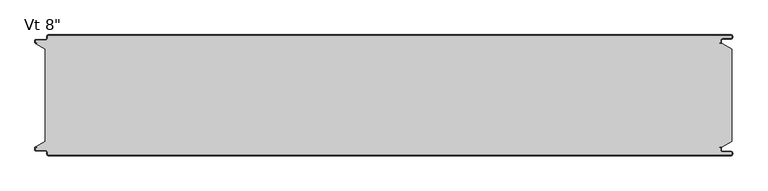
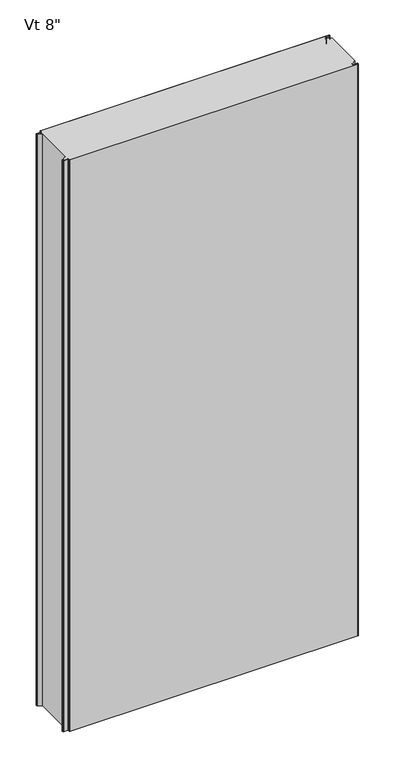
"""IFC4 building model written with IfcOpenShell, lengths in millimetres: plate geometry."""

from ifc_helpers import new_model, si_unit, frame, origin, place, context, project, spatial, polyline, circle_curve, source, transform, mapped, element, save
from ifc_brep_helpers import plane_surface, cylinder_surface, revolved_surface, advanced_brep


def plate_32e445c0(model_context):
    return source(origin(), model_context, "Body", "AdvancedBrep", [
        advanced_brep(
        [(-572.4125501, -200.2227194, 2400.0), (-570.4352761, -202.1999935, 2400.0), (574.5475652, -202.2, 2400.0), (576.5248337, -200.2227315, 2400.0), (576.5248337, -199.1806329, 2400.0), (574.5475652, -197.2033643, 2400.0), (560.3591802, -197.2033643, 2400.0), (557.7713036, -194.6154878, 2400.0), (557.7713036, -190.2950697, 2400.0), (557.1628365, -189.7060762, 2400.0), (554.7857432, -189.7060762, 2400.0), (554.7857432, -188.7066023, 2400.0), (560.2280123, -188.7066023, 2400.0), (576.2625, -179.4490865, 2400.0), (576.2625, -23.7509179, 2400.0), (560.2280123, -14.4933977, 2400.0), (554.7857432, -14.4933977, 2400.0), (554.7857432, -13.4939238, 2400.0), (557.1628365, -13.4939238, 2400.0), (557.7713036, -12.9049303, 2400.0), (557.7713036, -8.5845122, 2400.0), (560.3591802, -5.9966357, 2400.0), (574.5475652, -5.9966357, 2400.0), (576.5248337, -4.0193671, 2400.0), (576.5248337, -2.9772685, 2400.0), (574.5475652, -1.0, 2400.0), (-570.4352761, -1.0, 2400.0), (-572.4125501, -2.9772806, 2400.0), (-572.4125501, -5.2691705, 2400.0), (-576.3898173, -9.2464377, 2400.0), (-591.9862417, -9.2464377, 2400.0), (-592.5741186, -9.8343146, 2400.0), (-592.5741186, -12.9058635, 2400.0), (-591.986242, -13.4937402, 2400.0), (-589.6312064, -13.4937402, 2400.0), (-589.6312064, -14.4937402, 2400.0), (-591.9207851, -14.4937402, 2400.0), (-576.2625, -23.7509135, 2400.0), (-576.2625, -179.4490865, 2400.0), (-591.9207851, -188.7062598, 2400.0), (-589.6312064, -188.7062598, 2400.0), (-589.6312064, -189.7062598, 2400.0), (-591.986242, -189.7062598, 2400.0), (-592.5741186, -190.2941365, 2400.0), (-592.5741186, -193.3656854, 2400.0), (-591.9862417, -193.9535623, 2400.0), (-576.3898173, -193.9535623, 2400.0), (-572.4125501, -197.9308295, 2400.0), (-572.4125501, -200.2227194, 0.0), (-572.4125501, -197.9308295, 0.0), (-576.3898173, -193.9535623, 0.0), (-591.9862417, -193.9535623, 0.0), (-592.5741186, -193.3656854, 0.0), (-592.5741186, -190.2941365, 0.0), (-591.986242, -189.7062598, 0.0), (-589.6312064, -189.7062598, 0.0), (-589.6312064, -188.7062598, 0.0), (-591.9207851, -188.7062598, 0.0), (-576.2625, -179.4490865, 0.0), (-576.2625, -23.7509179, 0.0), (-591.9207851, -14.4937402, 0.0), (-589.6312064, -14.4937402, 0.0), (-589.6312064, -13.4937402, 0.0), (-591.986242, -13.4937402, 0.0), (-592.5741186, -12.9058635, 0.0), (-592.5741186, -9.8343146, 0.0), (-591.9862417, -9.2464377, 0.0), (-576.3898173, -9.2464377, 0.0), (-572.4125501, -5.2691705, 0.0), (-572.4125501, -2.9772806, 0.0), (-570.4352761, -1.0000065, 0.0), (574.5475652, -1.0, 0.0), (576.5248337, -2.9772685, 0.0), (576.5248337, -4.0193671, 0.0), (574.5475652, -5.9966357, 0.0), (560.3591802, -5.9966357, 0.0), (557.7713036, -8.5845122, 0.0), (557.7713036, -12.9049303, 0.0), (557.1628365, -13.4939238, 0.0), (554.7857432, -13.4939238, 0.0), (554.7857432, -14.4933977, 0.0), (560.2280123, -14.4933977, 0.0), (576.2625, -23.7509135, 0.0), (576.2625, -179.4490865, 0.0), (560.2280123, -188.7066023, 0.0), (554.7857432, -188.7066023, 0.0), (554.7857432, -189.7060762, 0.0), (557.1628365, -189.7060762, 0.0), (557.7713036, -190.2950697, 0.0), (557.7713036, -194.6154878, 0.0), (560.3591802, -197.2033643, 0.0), (574.5475652, -197.2033643, 0.0), (576.5248337, -199.1806329, 0.0), (576.5248337, -200.2227315, 0.0), (574.5475652, -202.2, 0.0), (-570.4352761, -202.2, 0.0)],
        [
            (0, 1, circle_curve(frame((-570.4352761, -200.2227194, 2400.0), z_axis=(0.0, 0.0, 1.0), x_axis=(-1.0, 0.0, 0.0)), 1.977274)),
            (1, 2),
            (2, 3, circle_curve(frame((574.5475652, -200.2227315, 2400.0), z_axis=(0.0, 0.0, 1.0), x_axis=(-1.0, 0.0, 0.0)), 1.9772685)),
            (3, 4),
            (4, 5, circle_curve(frame((574.5475652, -199.1806329, 2400.0), z_axis=(0.0, 0.0, 1.0), x_axis=(-1.0, 0.0, 0.0)), 1.9772685)),
            (5, 6),
            (6, 7, circle_curve(frame((560.3591802, -194.6154878, 2400.0), z_axis=(0.0, 0.0, -1.0), x_axis=(-1.0, 0.0, 0.0)), 2.5878765)),
            (7, 8),
            (8, 9, circle_curve(frame((557.1819985, -190.2950697, 2400.0), z_axis=(0.0, 0.0, 1.0), x_axis=(-1.0, 0.0, 0.0)), 0.5893051)),
            (9, 10),
            (10, 11),
            (11, 12),
            (12, 13),
            (13, 14),
            (14, 15),
            (15, 16),
            (16, 17),
            (17, 18),
            (18, 19, circle_curve(frame((557.1819985, -12.9049303, 2400.0), z_axis=(0.0, 0.0, 1.0), x_axis=(0.0, 1.0, 0.0)), 0.5893051)),
            (19, 20),
            (20, 21, circle_curve(frame((560.3591802, -8.5845122, 2400.0), z_axis=(0.0, 0.0, -1.0), x_axis=(0.0, 1.0, 0.0)), 2.5878765)),
            (21, 22),
            (22, 23, circle_curve(frame((574.5475652, -4.0193671, 2400.0), z_axis=(0.0, 0.0, 1.0), x_axis=(0.0, 1.0, 0.0)), 1.9772685)),
            (23, 24),
            (24, 25, circle_curve(frame((574.5475652, -2.9772685, 2400.0), z_axis=(0.0, 0.0, 1.0), x_axis=(0.0, 1.0, 0.0)), 1.9772685)),
            (25, 26),
            (26, 27, circle_curve(frame((-570.4352761, -2.9772806, 2400.0), z_axis=(0.0, 0.0, 1.0), x_axis=(0.0, 1.0, 0.0)), 1.977274)),
            (27, 28),
            (28, 29, circle_curve(frame((-576.3898173, -5.2691705, 2400.0), z_axis=(0.0, 0.0, -1.0), x_axis=(0.0, 1.0, 0.0)), 3.9772671)),
            (29, 30),
            (30, 31, circle_curve(frame((-591.9862417, -9.8343146, 2400.0), z_axis=(0.0, 0.0, 1.0), x_axis=(0.0, 1.0, 0.0)), 0.5878769)),
            (31, 32),
            (32, 33, circle_curve(frame((-591.986242, -12.9058635, 2400.0), z_axis=(0.0, 0.0, 1.0), x_axis=(0.0, 1.0, 0.0)), 0.5878766)),
            (33, 34),
            (34, 35),
            (35, 36),
            (36, 37),
            (37, 38),
            (38, 39),
            (39, 40),
            (40, 41),
            (41, 42),
            (42, 43, circle_curve(frame((-591.986242, -190.2941365, 2400.0), z_axis=(0.0, 0.0, 1.0), x_axis=(-1.0, 0.0, 0.0)), 0.5878766)),
            (43, 44),
            (44, 45, circle_curve(frame((-591.9862417, -193.3656854, 2400.0), z_axis=(0.0, 0.0, 1.0), x_axis=(-1.0, 0.0, 0.0)), 0.5878769)),
            (45, 46),
            (46, 47, circle_curve(frame((-576.3898173, -197.9308295, 2400.0), z_axis=(0.0, 0.0, -1.0), x_axis=(-1.0, 0.0, 0.0)), 3.9772671)),
            (47, 0),
            (48, 49),
            (49, 50, circle_curve(frame((-576.3898173, -197.9308295, 0.0), z_axis=(0.0, 0.0, 1.0), x_axis=(-1.0, 0.0, 0.0)), 3.9772671)),
            (50, 51),
            (51, 52, circle_curve(frame((-591.9862417, -193.3656854, 0.0), z_axis=(0.0, 0.0, -1.0), x_axis=(-1.0, 0.0, 0.0)), 0.5878769)),
            (52, 53),
            (53, 54, circle_curve(frame((-591.986242, -190.2941365, 0.0), z_axis=(0.0, 0.0, -1.0), x_axis=(-1.0, 0.0, 0.0)), 0.5878766)),
            (54, 55),
            (55, 56),
            (56, 57),
            (57, 58),
            (58, 59),
            (59, 60),
            (60, 61),
            (61, 62),
            (62, 63),
            (63, 64, circle_curve(frame((-591.986242, -12.9058635, 0.0), z_axis=(0.0, 0.0, -1.0), x_axis=(0.0, 1.0, 0.0)), 0.5878766)),
            (64, 65),
            (65, 66, circle_curve(frame((-591.9862417, -9.8343146, 0.0), z_axis=(0.0, 0.0, -1.0), x_axis=(0.0, 1.0, 0.0)), 0.5878769)),
            (66, 67),
            (67, 68, circle_curve(frame((-576.3898173, -5.2691705, 0.0), z_axis=(0.0, 0.0, 1.0), x_axis=(0.0, 1.0, 0.0)), 3.9772671)),
            (68, 69),
            (69, 70, circle_curve(frame((-570.4352761, -2.9772806, 0.0), z_axis=(0.0, 0.0, -1.0), x_axis=(0.0, 1.0, 0.0)), 1.977274)),
            (70, 71),
            (71, 72, circle_curve(frame((574.5475652, -2.9772685, 0.0), z_axis=(0.0, 0.0, -1.0), x_axis=(0.0, 1.0, 0.0)), 1.9772685)),
            (72, 73),
            (73, 74, circle_curve(frame((574.5475652, -4.0193671, 0.0), z_axis=(0.0, 0.0, -1.0), x_axis=(0.0, 1.0, 0.0)), 1.9772685)),
            (74, 75),
            (75, 76, circle_curve(frame((560.3591802, -8.5845122, 0.0), z_axis=(0.0, 0.0, 1.0), x_axis=(0.0, 1.0, 0.0)), 2.5878765)),
            (76, 77),
            (77, 78, circle_curve(frame((557.1819985, -12.9049303, 0.0), z_axis=(0.0, 0.0, -1.0), x_axis=(0.0, 1.0, 0.0)), 0.5893051)),
            (78, 79),
            (79, 80),
            (80, 81),
            (81, 82),
            (82, 83),
            (83, 84),
            (84, 85),
            (85, 86),
            (86, 87),
            (87, 88, circle_curve(frame((557.1819985, -190.2950697, 0.0), z_axis=(0.0, 0.0, -1.0), x_axis=(-1.0, 0.0, 0.0)), 0.5893051)),
            (88, 89),
            (89, 90, circle_curve(frame((560.3591802, -194.6154878, 0.0), z_axis=(0.0, 0.0, 1.0), x_axis=(-1.0, 0.0, 0.0)), 2.5878765)),
            (90, 91),
            (91, 92, circle_curve(frame((574.5475652, -199.1806329, 0.0), z_axis=(0.0, 0.0, -1.0), x_axis=(-1.0, 0.0, 0.0)), 1.9772685)),
            (92, 93),
            (93, 94, circle_curve(frame((574.5475652, -200.2227315, 0.0), z_axis=(0.0, 0.0, -1.0), x_axis=(-1.0, 0.0, 0.0)), 1.9772685)),
            (94, 95),
            (95, 48, circle_curve(frame((-570.4352761, -200.2227194, 0.0), z_axis=(0.0, 0.0, -1.0), x_axis=(-1.0, 0.0, 0.0)), 1.977274)),
            (37, 59),
            (58, 38),
            (13, 83),
            (82, 14),
            (47, 49),
            (48, 0),
            (46, 50),
            (45, 51),
            (44, 52),
            (43, 53),
            (42, 54),
            (41, 55),
            (40, 56),
            (39, 57),
            (12, 84),
            (11, 85),
            (10, 86),
            (9, 87),
            (8, 88),
            (7, 89),
            (6, 90),
            (5, 91),
            (4, 92),
            (3, 93),
            (2, 94),
            (1, 95),
            (26, 70),
            (69, 27),
            (25, 71),
            (24, 72),
            (23, 73),
            (22, 74),
            (21, 75),
            (20, 76),
            (19, 77),
            (18, 78),
            (17, 79),
            (16, 80),
            (15, 81),
            (36, 60),
            (35, 61),
            (34, 62),
            (33, 63),
            (32, 64),
            (31, 65),
            (30, 66),
            (29, 67),
            (28, 68),
        ],
        [
            plane_surface(frame((0.0, -202.2, 2400.0), z_axis=(0.0, 0.0, 1.0), x_axis=(0.0, -1.0, 0.0))),
            plane_surface(frame((0.0, -202.2, 0.0), z_axis=(0.0, 0.0, -1.0), x_axis=(0.0, -1.0, 0.0))),
            plane_surface(frame((-576.2625, -179.4490865, 2400.0), z_axis=(-1.0, 0.0, 0.0), x_axis=(0.0, 0.0, -1.0))),
            plane_surface(frame((576.2625, -23.7509179, 2400.0), z_axis=(1.0, 0.0, 0.0), x_axis=(0.0, 0.0, -1.0))),
            plane_surface(frame((-572.4125501, -200.2227194, 2400.0), z_axis=(-1.0, 0.0, 0.0), x_axis=(0.0, 0.0, -1.0))),
            revolved_surface(polyline([(-580.3670844, -197.9308295, 0.0), (-580.3670844, -197.9308295, 2400.0)]), (-576.3898173, -197.9308295, 2400.0), (0.0, 0.0, -1.0)),
            plane_surface(frame((-576.3898173, -193.9535623, 2400.0), z_axis=(0.0, -1.0, 0.0), x_axis=(0.0, 0.0, -1.0))),
            cylinder_surface(frame((-591.9862417, -193.3656854, 2400.0), z_axis=(0.0, 0.0, 1.0), x_axis=(-1.0, 0.0, 0.0)), 0.5878769),
            plane_surface(frame((-592.5741186, -193.3656854, 2400.0), z_axis=(-1.0, 0.0, 0.0), x_axis=(0.0, 0.0, -1.0))),
            cylinder_surface(frame((-591.986242, -190.2941365, 2400.0), z_axis=(0.0, 0.0, 1.0), x_axis=(-1.0, 0.0, 0.0)), 0.5878766),
            plane_surface(frame((-591.986242, -189.7062598, 2400.0), z_axis=(0.0, 1.0, 0.0), x_axis=(0.0, 0.0, -1.0))),
            plane_surface(frame((-589.6312064, -189.7062598, 2400.0), z_axis=(-1.0, 0.0, 0.0), x_axis=(0.0, 0.0, -1.0))),
            plane_surface(frame((-589.6312064, -188.7062598, 2400.0), z_axis=(0.0, -1.0, 0.0), x_axis=(0.0, 0.0, -1.0))),
            plane_surface(frame((-591.9207851, -188.7062598, 2400.0), z_axis=(-0.5089147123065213, 0.860816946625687, 0.0), x_axis=(0.0, 0.0, -1.0))),
            plane_surface(frame((576.2625, -179.4490865, 2400.0), z_axis=(0.500000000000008, -0.866025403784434, 0.0), x_axis=(0.0, 0.0, -1.0))),
            plane_surface(frame((560.2280123, -188.7066023, 2400.0), z_axis=(0.0, -1.0, 0.0), x_axis=(0.0, 0.0, -1.0))),
            plane_surface(frame((554.7857432, -188.7066023, 2400.0), z_axis=(1.0, 0.0, 0.0), x_axis=(0.0, 0.0, -1.0))),
            plane_surface(frame((554.7857432, -189.7060762, 2400.0), z_axis=(0.0, 1.0, 0.0), x_axis=(0.0, 0.0, -1.0))),
            cylinder_surface(frame((557.1819985, -190.2950697, 2400.0), z_axis=(0.0, 0.0, 1.0), x_axis=(-1.0, 0.0, 0.0)), 0.5893051),
            plane_surface(frame((557.7713036, -190.2950697, 2400.0), z_axis=(1.0, 0.0, 0.0), x_axis=(0.0, 0.0, -1.0))),
            revolved_surface(polyline([(557.7713037, -194.6154878, 0.0), (557.7713037, -194.6154878, 2400.0)]), (560.3591802, -194.6154878, 2400.0), (0.0, 0.0, -1.0)),
            plane_surface(frame((560.3591802, -197.2033643, 2400.0), z_axis=(0.0, 1.0, 0.0), x_axis=(0.0, 0.0, -1.0))),
            cylinder_surface(frame((574.5475652, -199.1806329, 2400.0), z_axis=(0.0, 0.0, 1.0), x_axis=(-1.0, 0.0, 0.0)), 1.9772685),
            plane_surface(frame((576.5248337, -199.1806329, 2400.0), z_axis=(1.0, 0.0, 0.0), x_axis=(0.0, 0.0, -1.0))),
            cylinder_surface(frame((574.5475652, -200.2227315, 2400.0), z_axis=(0.0, 0.0, 1.0), x_axis=(-1.0, 0.0, 0.0)), 1.9772685),
            plane_surface(frame((574.5475652, -202.2, 2400.0), z_axis=(0.0, -1.0, 0.0), x_axis=(0.0, 0.0, -1.0))),
            cylinder_surface(frame((-570.4352761, -200.2227194, 2400.0), z_axis=(0.0, 0.0, 1.0), x_axis=(-1.0, 0.0, 0.0)), 1.977274),
            cylinder_surface(frame((-570.4352761, -2.9772806, 2400.0), z_axis=(0.0, 0.0, 1.0), x_axis=(0.0, 1.0, 0.0)), 1.977274),
            plane_surface(frame((-570.4352761, -1.0, 2400.0), z_axis=(0.0, 1.0, 0.0), x_axis=(0.0, 0.0, -1.0))),
            cylinder_surface(frame((574.5475652, -2.9772685, 2400.0), z_axis=(0.0, 0.0, 1.0), x_axis=(0.0, 1.0, 0.0)), 1.9772685),
            plane_surface(frame((576.5248337, -2.9772685, 2400.0), z_axis=(1.0, 0.0, 0.0), x_axis=(0.0, 0.0, -1.0))),
            cylinder_surface(frame((574.5475652, -4.0193671, 2400.0), z_axis=(0.0, 0.0, 1.0), x_axis=(0.0, 1.0, 0.0)), 1.9772685),
            plane_surface(frame((574.5475652, -5.9966357, 2400.0), z_axis=(0.0, -1.0, 0.0), x_axis=(0.0, 0.0, -1.0))),
            revolved_surface(polyline([(560.3591802, -5.996635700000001, 0.0), (560.3591802, -5.996635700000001, 2400.0)]), (560.3591802, -8.5845122, 2400.0), (0.0, 0.0, -1.0)),
            plane_surface(frame((557.7713036, -8.5845122, 2400.0), z_axis=(1.0, 0.0, 0.0), x_axis=(0.0, 0.0, -1.0))),
            cylinder_surface(frame((557.1819985, -12.9049303, 2400.0), z_axis=(0.0, 0.0, 1.0), x_axis=(0.0, 1.0, 0.0)), 0.5893051),
            plane_surface(frame((557.1628365, -13.4939238, 2400.0), z_axis=(0.0, -1.0, 0.0), x_axis=(0.0, 0.0, -1.0))),
            plane_surface(frame((554.7857432, -13.4939238, 2400.0), z_axis=(1.0, 0.0, 0.0), x_axis=(0.0, 0.0, -1.0))),
            plane_surface(frame((554.7857432, -14.4933977, 2400.0), z_axis=(0.0, 1.0, 0.0), x_axis=(0.0, 0.0, -1.0))),
            plane_surface(frame((560.2280123, -14.4933977, 2400.0), z_axis=(0.5000000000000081, 0.866025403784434, 0.0), x_axis=(0.0, 0.0, -1.0))),
            plane_surface(frame((-576.2625, -23.7509135, 2400.0), z_axis=(-0.5089147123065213, -0.860816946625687, 0.0), x_axis=(0.0, 0.0, -1.0))),
            plane_surface(frame((-591.9207851, -14.4937402, 2400.0), z_axis=(0.0, 1.0, 0.0), x_axis=(0.0, 0.0, -1.0))),
            plane_surface(frame((-589.6312064, -14.4937402, 2400.0), z_axis=(-1.0, 0.0, 0.0), x_axis=(0.0, 0.0, -1.0))),
            plane_surface(frame((-589.6312064, -13.4937402, 2400.0), z_axis=(0.0, -1.0, 0.0), x_axis=(0.0, 0.0, -1.0))),
            cylinder_surface(frame((-591.986242, -12.9058635, 2400.0), z_axis=(0.0, 0.0, 1.0), x_axis=(0.0, 1.0, 0.0)), 0.5878766),
            plane_surface(frame((-592.5741186, -12.9058635, 2400.0), z_axis=(-1.0, 0.0, 0.0), x_axis=(0.0, 0.0, -1.0))),
            cylinder_surface(frame((-591.9862417, -9.8343146, 2400.0), z_axis=(0.0, 0.0, 1.0), x_axis=(0.0, 1.0, 0.0)), 0.5878769),
            plane_surface(frame((-591.9862417, -9.2464377, 2400.0), z_axis=(0.0, 1.0, 0.0), x_axis=(0.0, 0.0, -1.0))),
            revolved_surface(polyline([(-576.3898173, -1.2919034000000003, 0.0), (-576.3898173, -1.2919034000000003, 2400.0)]), (-576.3898173, -5.2691705, 2400.0), (0.0, 0.0, -1.0)),
            plane_surface(frame((-572.4125501, -5.2691705, 2400.0), z_axis=(-1.0, 0.0, 0.0), x_axis=(0.0, 0.0, -1.0))),
        ],
        [
            (0, [[1, 2, 3, 4, 5, 6, 7, 8, 9, 10, 11, 12, 13, 14, 15, 16, 17, 18, 19, 20, 21, 22, 23, 24, 25, 26, 27, 28, 29, 30, 31, 32, 33, 34, 35, 36, 37, 38, 39, 40, 41, 42, 43, 44, 45, 46, 47, 48]]),
            (1, [[49, 50, 51, 52, 53, 54, 55, 56, 57, 58, 59, 60, 61, 62, 63, 64, 65, 66, 67, 68, 69, 70, 71, 72, 73, 74, 75, 76, 77, 78, 79, 80, 81, 82, 83, 84, 85, 86, 87, 88, 89, 90, 91, 92, 93, 94, 95, 96]]),
            (2, [[97, -59, 98, -38]]),
            (3, [[99, -83, 100, -14]]),
            (4, [[101, -49, 102, -48]]),
            (5, [[103, -50, -101, -47]]),
            (6, [[104, -51, -103, -46]]),
            (7, [[105, -52, -104, -45]]),
            (8, [[106, -53, -105, -44]]),
            (9, [[107, -54, -106, -43]]),
            (10, [[108, -55, -107, -42]]),
            (11, [[109, -56, -108, -41]]),
            (12, [[110, -57, -109, -40]]),
            (13, [[-98, -58, -110, -39]]),
            (14, [[111, -84, -99, -13]]),
            (15, [[112, -85, -111, -12]]),
            (16, [[113, -86, -112, -11]]),
            (17, [[114, -87, -113, -10]]),
            (18, [[115, -88, -114, -9]]),
            (19, [[116, -89, -115, -8]]),
            (20, [[117, -90, -116, -7]]),
            (21, [[118, -91, -117, -6]]),
            (22, [[119, -92, -118, -5]]),
            (23, [[120, -93, -119, -4]]),
            (24, [[121, -94, -120, -3]]),
            (25, [[122, -95, -121, -2]]),
            (26, [[-102, -96, -122, -1]]),
            (27, [[123, -70, 124, -27]]),
            (28, [[125, -71, -123, -26]]),
            (29, [[126, -72, -125, -25]]),
            (30, [[127, -73, -126, -24]]),
            (31, [[128, -74, -127, -23]]),
            (32, [[129, -75, -128, -22]]),
            (33, [[130, -76, -129, -21]]),
            (34, [[131, -77, -130, -20]]),
            (35, [[132, -78, -131, -19]]),
            (36, [[133, -79, -132, -18]]),
            (37, [[134, -80, -133, -17]]),
            (38, [[135, -81, -134, -16]]),
            (39, [[-100, -82, -135, -15]]),
            (40, [[136, -60, -97, -37]]),
            (41, [[137, -61, -136, -36]]),
            (42, [[138, -62, -137, -35]]),
            (43, [[139, -63, -138, -34]]),
            (44, [[140, -64, -139, -33]]),
            (45, [[141, -65, -140, -32]]),
            (46, [[142, -66, -141, -31]]),
            (47, [[143, -67, -142, -30]]),
            (48, [[144, -68, -143, -29]]),
            (49, [[-124, -69, -144, -28]]),
        ],
    ),
        advanced_brep(
        [(-572.4123937, -2.9776189, 2400.0), (-570.4354837, -1.0007088, 2400.0), (574.550337, -1.0007088, 2400.0), (576.5262182, -2.97659, 2400.0), (576.5262182, -4.019022, 2400.0), (574.5482568, -5.9969834, 2400.0), (560.3590971, -5.9969834, 2400.0), (557.7713971, -8.5846834, 2400.0), (557.7713971, -12.9049158, 2400.0), (557.1628599, -13.4939528, 2400.0), (554.7857432, -13.4939528, 2400.0), (554.7857432, -14.4933977, 2400.0), (557.1304042, -14.4933977, 2400.0), (558.7713036, -12.9049303, 2400.0), (558.7713036, -8.5845122, 2400.0), (560.3591801, -6.9966356, 2400.0), (574.5475652, -6.9966356, 2400.0), (577.5248337, -4.0193671, 2400.0), (577.5248337, -2.9772685, 2400.0), (574.5475652, 0.0, 2400.0), (-570.4352789, 0.0, 2400.0), (-573.4125474, -2.977286, 2400.0), (-573.4125474, -5.2691698, 2400.0), (-576.3898159, -8.2464384, 2400.0), (-591.9862419, -8.2464384, 2400.0), (-593.5741185, -9.8343149, 2400.0), (-593.5741185, -12.9058636, 2400.0), (-591.9862419, -14.4937401, 2400.0), (-589.6312064, -14.4937401, 2400.0), (-589.6312064, -13.4937365, 2400.0), (-591.9862374, -13.4937365, 2400.0), (-592.5741086, -12.9058654, 2400.0), (-592.5741086, -9.834334, 2400.0), (-591.9862514, -9.2464768, 2400.0), (-576.3897391, -9.2464768, 2400.0), (-572.4123937, -5.2691315, 2400.0), (-572.4123937, -2.9776189, 0.0), (-572.4123937, -5.2691315, 0.0), (-576.3897391, -9.2464768, 0.0), (-591.9862514, -9.2464768, 0.0), (-592.5741086, -9.834334, 0.0), (-592.5741086, -12.9058654, 0.0), (-591.9862374, -13.4937365, 0.0), (-589.6312064, -13.4937365, 0.0), (-589.6312064, -14.4937401, 0.0), (-591.9862419, -14.4937401, 0.0), (-593.5741185, -12.9058636, 0.0), (-593.5741185, -9.8343149, 0.0), (-591.9862419, -8.2464384, 0.0), (-576.3898159, -8.2464384, 0.0), (-573.4125474, -5.2691698, 0.0), (-573.4125474, -2.977286, 0.0), (-570.4352789, -1.75e-05, 0.0), (574.5475652, 0.0, 0.0), (577.5248337, -2.9772685, 0.0), (577.5248337, -4.0193671, 0.0), (574.5475652, -6.9966356, 0.0), (560.3591801, -6.9966356, 0.0), (558.7713036, -8.5845122, 0.0), (558.7713036, -12.9049303, 0.0), (557.1304042, -14.4933977, 0.0), (554.7857432, -14.4933977, 0.0), (554.7857432, -13.4939528, 0.0), (557.1628599, -13.4939528, 0.0), (557.7713971, -12.9049158, 0.0), (557.7713971, -8.5846834, 0.0), (560.3590971, -5.9969834, 0.0), (574.5482568, -5.9969834, 0.0), (576.5262182, -4.019022, 0.0), (576.5262182, -2.97659, 0.0), (574.550337, -1.0007088, 0.0), (-570.4354837, -1.0007088, 0.0)],
        [
            (0, 1, circle_curve(frame((-570.4354837, -2.9776189, 2400.0), z_axis=(0.0, 0.0, -1.0), x_axis=(0.0, 1.0, 0.0)), 1.9769101)),
            (1, 2),
            (2, 3, circle_curve(frame((574.550337, -2.97659, 2400.0), z_axis=(0.0, 0.0, -1.0), x_axis=(0.0, 1.0, 0.0)), 1.9758812)),
            (3, 4),
            (4, 5, circle_curve(frame((574.5482568, -4.019022, 2400.0), z_axis=(0.0, 0.0, -1.0), x_axis=(0.0, 1.0, 0.0)), 1.9779614)),
            (5, 6),
            (6, 7, circle_curve(frame((560.3590971, -8.5846834, 2400.0), z_axis=(0.0, 0.0, 1.0), x_axis=(0.0, 1.0, 0.0)), 2.5877)),
            (7, 8),
            (8, 9, circle_curve(frame((557.1820477, -12.9049158, 2400.0), z_axis=(0.0, 0.0, -1.0), x_axis=(0.0, 1.0, 0.0)), 0.5893495)),
            (9, 10),
            (10, 11),
            (11, 12),
            (12, 13, circle_curve(frame((557.1819985, -12.9049303, 2400.0), z_axis=(0.0, 0.0, 1.0), x_axis=(0.0, 1.0, 0.0)), 1.5893051)),
            (13, 14),
            (14, 15, circle_curve(frame((560.3591801, -8.5845122, 2400.0), z_axis=(0.0, 0.0, -1.0), x_axis=(0.0, 1.0, 0.0)), 1.5878765)),
            (15, 16),
            (16, 17, circle_curve(frame((574.5475652, -4.0193671, 2400.0), z_axis=(0.0, 0.0, 1.0), x_axis=(0.0, 1.0, 0.0)), 2.9772685)),
            (17, 18),
            (18, 19, circle_curve(frame((574.5475652, -2.9772685, 2400.0), z_axis=(0.0, 0.0, 1.0), x_axis=(0.0, 1.0, 0.0)), 2.9772685)),
            (19, 20),
            (20, 21, circle_curve(frame((-570.4352789, -2.977286, 2400.0), z_axis=(0.0, 0.0, 1.0), x_axis=(0.0, 1.0, 0.0)), 2.9772685)),
            (21, 22),
            (22, 23, circle_curve(frame((-576.3898159, -5.2691698, 2400.0), z_axis=(0.0, 0.0, -1.0), x_axis=(0.0, 1.0, 0.0)), 2.9772685)),
            (23, 24),
            (24, 25, circle_curve(frame((-591.9862419, -9.8343149, 2400.0), z_axis=(0.0, 0.0, 1.0), x_axis=(0.0, 1.0, 0.0)), 1.5878765)),
            (25, 26),
            (26, 27, circle_curve(frame((-591.9862419, -12.9058636, 2400.0), z_axis=(0.0, 0.0, 1.0), x_axis=(0.0, 1.0, 0.0)), 1.5878765)),
            (27, 28),
            (28, 29),
            (29, 30),
            (30, 31, circle_curve(frame((-591.9862374, -12.9058654, 2400.0), z_axis=(0.0, 0.0, -1.0), x_axis=(0.0, 1.0, 0.0)), 0.5878711)),
            (31, 32),
            (32, 33, circle_curve(frame((-591.9862514, -9.834334, 2400.0), z_axis=(0.0, 0.0, -1.0), x_axis=(0.0, 1.0, 0.0)), 0.5878572)),
            (33, 34),
            (34, 35, circle_curve(frame((-576.3897391, -5.2691315, 2400.0), z_axis=(0.0, 0.0, 1.0), x_axis=(0.0, 1.0, 0.0)), 3.9773454)),
            (35, 0),
            (36, 37),
            (37, 38, circle_curve(frame((-576.3897391, -5.2691315, 0.0), z_axis=(0.0, 0.0, -1.0), x_axis=(0.0, 1.0, 0.0)), 3.9773454)),
            (38, 39),
            (39, 40, circle_curve(frame((-591.9862514, -9.834334, 0.0), z_axis=(0.0, 0.0, 1.0), x_axis=(0.0, 1.0, 0.0)), 0.5878572)),
            (40, 41),
            (41, 42, circle_curve(frame((-591.9862374, -12.9058654, 0.0), z_axis=(0.0, 0.0, 1.0), x_axis=(0.0, 1.0, 0.0)), 0.5878711)),
            (42, 43),
            (43, 44),
            (44, 45),
            (45, 46, circle_curve(frame((-591.9862419, -12.9058636, 0.0), z_axis=(0.0, 0.0, -1.0), x_axis=(0.0, 1.0, 0.0)), 1.5878765)),
            (46, 47),
            (47, 48, circle_curve(frame((-591.9862419, -9.8343149, 0.0), z_axis=(0.0, 0.0, -1.0), x_axis=(0.0, 1.0, 0.0)), 1.5878765)),
            (48, 49),
            (49, 50, circle_curve(frame((-576.3898159, -5.2691698, 0.0), z_axis=(0.0, 0.0, 1.0), x_axis=(0.0, 1.0, 0.0)), 2.9772685)),
            (50, 51),
            (51, 52, circle_curve(frame((-570.4352789, -2.977286, 0.0), z_axis=(0.0, 0.0, -1.0), x_axis=(0.0, 1.0, 0.0)), 2.9772685)),
            (52, 53),
            (53, 54, circle_curve(frame((574.5475652, -2.9772685, 0.0), z_axis=(0.0, 0.0, -1.0), x_axis=(0.0, 1.0, 0.0)), 2.9772685)),
            (54, 55),
            (55, 56, circle_curve(frame((574.5475652, -4.0193671, 0.0), z_axis=(0.0, 0.0, -1.0), x_axis=(0.0, 1.0, 0.0)), 2.9772685)),
            (56, 57),
            (57, 58, circle_curve(frame((560.3591801, -8.5845122, 0.0), z_axis=(0.0, 0.0, 1.0), x_axis=(0.0, 1.0, 0.0)), 1.5878765)),
            (58, 59),
            (59, 60, circle_curve(frame((557.1819985, -12.9049303, 0.0), z_axis=(0.0, 0.0, -1.0), x_axis=(0.0, 1.0, 0.0)), 1.5893051)),
            (60, 61),
            (61, 62),
            (62, 63),
            (63, 64, circle_curve(frame((557.1820477, -12.9049158, 0.0), z_axis=(0.0, 0.0, 1.0), x_axis=(0.0, 1.0, 0.0)), 0.5893495)),
            (64, 65),
            (65, 66, circle_curve(frame((560.3590971, -8.5846834, 0.0), z_axis=(0.0, 0.0, -1.0), x_axis=(0.0, 1.0, 0.0)), 2.5877)),
            (66, 67),
            (67, 68, circle_curve(frame((574.5482568, -4.019022, 0.0), z_axis=(0.0, 0.0, 1.0), x_axis=(0.0, 1.0, 0.0)), 1.9779614)),
            (68, 69),
            (69, 70, circle_curve(frame((574.550337, -2.97659, 0.0), z_axis=(0.0, 0.0, 1.0), x_axis=(0.0, 1.0, 0.0)), 1.9758812)),
            (70, 71),
            (71, 36, circle_curve(frame((-570.4354837, -2.9776189, 0.0), z_axis=(0.0, 0.0, 1.0), x_axis=(0.0, 1.0, 0.0)), 1.9769101)),
            (35, 37),
            (36, 0),
            (34, 38),
            (33, 39),
            (32, 40),
            (31, 41),
            (30, 42),
            (29, 43),
            (28, 44),
            (27, 45),
            (26, 46),
            (25, 47),
            (24, 48),
            (23, 49),
            (22, 50),
            (21, 51),
            (20, 52),
            (19, 53),
            (18, 54),
            (17, 55),
            (16, 56),
            (15, 57),
            (14, 58),
            (13, 59),
            (12, 60),
            (11, 61),
            (10, 62),
            (9, 63),
            (8, 64),
            (7, 65),
            (6, 66),
            (5, 67),
            (4, 68),
            (3, 69),
            (2, 70),
            (1, 71),
        ],
        [
            plane_surface(frame((0.0, 0.0, 2400.0), z_axis=(0.0, 0.0, 1.0), x_axis=(0.0, 1.0, 0.0))),
            plane_surface(frame((0.0, 0.0, 0.0), z_axis=(0.0, 0.0, -1.0), x_axis=(0.0, 1.0, 0.0))),
            plane_surface(frame((-572.4123937, -2.9776189, 2400.0), z_axis=(1.0, 0.0, 0.0), x_axis=(0.0, 0.0, -1.0))),
            cylinder_surface(frame((-576.3897391, -5.2691315, 2400.0), z_axis=(0.0, 0.0, 1.0), x_axis=(0.0, 1.0, 0.0)), 3.9773454),
            plane_surface(frame((-576.3897391, -9.2464768, 2400.0), z_axis=(0.0, -1.0, 0.0), x_axis=(0.0, 0.0, -1.0))),
            revolved_surface(polyline([(-591.9862514, -9.2464768, 0.0), (-591.9862514, -9.2464768, 2400.0)]), (-591.9862514, -9.834334, 2400.0), (0.0, 0.0, -1.0)),
            plane_surface(frame((-592.5741086, -9.834334, 2400.0), z_axis=(1.0, 0.0, 0.0), x_axis=(0.0, 0.0, -1.0))),
            revolved_surface(polyline([(-591.9862374, -12.3179943, 0.0), (-591.9862374, -12.3179943, 2400.0)]), (-591.9862374, -12.9058654, 2400.0), (0.0, 0.0, -1.0)),
            plane_surface(frame((-591.9862374, -13.4937365, 2400.0), z_axis=(0.0, 1.0, 0.0), x_axis=(0.0, 0.0, -1.0))),
            plane_surface(frame((-589.6312064, -13.4937365, 2400.0), z_axis=(1.0, 0.0, 0.0), x_axis=(0.0, 0.0, -1.0))),
            plane_surface(frame((-589.6312064, -14.4937401, 2400.0), z_axis=(0.0, -1.0, 0.0), x_axis=(0.0, 0.0, -1.0))),
            cylinder_surface(frame((-591.9862419, -12.9058636, 2400.0), z_axis=(0.0, 0.0, 1.0), x_axis=(0.0, 1.0, 0.0)), 1.5878765),
            plane_surface(frame((-593.5741185, -12.9058636, 2400.0), z_axis=(-1.0, 0.0, 0.0), x_axis=(0.0, 0.0, -1.0))),
            cylinder_surface(frame((-591.9862419, -9.8343149, 2400.0), z_axis=(0.0, 0.0, 1.0), x_axis=(0.0, 1.0, 0.0)), 1.5878765),
            plane_surface(frame((-591.9862419, -8.2464384, 2400.0), z_axis=(0.0, 1.0, 0.0), x_axis=(0.0, 0.0, -1.0))),
            revolved_surface(polyline([(-576.3898159, -2.2919013, 0.0), (-576.3898159, -2.2919013, 2400.0)]), (-576.3898159, -5.2691698, 2400.0), (0.0, 0.0, -1.0)),
            plane_surface(frame((-573.4125474, -5.2691698, 2400.0), z_axis=(-1.0, 0.0, 0.0), x_axis=(0.0, 0.0, -1.0))),
            cylinder_surface(frame((-570.4352789, -2.977286, 2400.0), z_axis=(0.0, 0.0, 1.0), x_axis=(0.0, 1.0, 0.0)), 2.9772685),
            plane_surface(frame((-570.4352789, 0.0, 2400.0), z_axis=(0.0, 1.0, 0.0), x_axis=(0.0, 0.0, -1.0))),
            cylinder_surface(frame((574.5475652, -2.9772685, 2400.0), z_axis=(0.0, 0.0, 1.0), x_axis=(0.0, 1.0, 0.0)), 2.9772685),
            plane_surface(frame((577.5248337, -2.9772685, 2400.0), z_axis=(1.0, 0.0, 0.0), x_axis=(0.0, 0.0, -1.0))),
            cylinder_surface(frame((574.5475652, -4.0193671, 2400.0), z_axis=(0.0, 0.0, 1.0), x_axis=(0.0, 1.0, 0.0)), 2.9772685),
            plane_surface(frame((574.5475652, -6.9966356, 2400.0), z_axis=(0.0, -1.0, 0.0), x_axis=(0.0, 0.0, -1.0))),
            revolved_surface(polyline([(560.3591801, -6.996635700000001, 0.0), (560.3591801, -6.996635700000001, 2400.0)]), (560.3591801, -8.5845122, 2400.0), (0.0, 0.0, -1.0)),
            plane_surface(frame((558.7713036, -8.5845122, 2400.0), z_axis=(1.0, 0.0, 0.0), x_axis=(0.0, 0.0, -1.0))),
            cylinder_surface(frame((557.1819985, -12.9049303, 2400.0), z_axis=(0.0, 0.0, 1.0), x_axis=(0.0, 1.0, 0.0)), 1.5893051),
            plane_surface(frame((557.1304042, -14.4933977, 2400.0), z_axis=(0.0, -1.0, 0.0), x_axis=(0.0, 0.0, -1.0))),
            plane_surface(frame((554.7857432, -14.4933977, 2400.0), z_axis=(-1.0, 0.0, 0.0), x_axis=(0.0, 0.0, -1.0))),
            plane_surface(frame((554.7857432, -13.4939528, 2400.0), z_axis=(0.0, 1.0, 0.0), x_axis=(0.0, 0.0, -1.0))),
            revolved_surface(polyline([(557.1820477, -12.3155663, 0.0), (557.1820477, -12.3155663, 2400.0)]), (557.1820477, -12.9049158, 2400.0), (0.0, 0.0, -1.0)),
            plane_surface(frame((557.7713971, -12.9049158, 2400.0), z_axis=(-1.0, 0.0, 0.0), x_axis=(0.0, 0.0, -1.0))),
            cylinder_surface(frame((560.3590971, -8.5846834, 2400.0), z_axis=(0.0, 0.0, 1.0), x_axis=(0.0, 1.0, 0.0)), 2.5877),
            plane_surface(frame((560.3590971, -5.9969834, 2400.0), z_axis=(0.0, 1.0, 0.0), x_axis=(0.0, 0.0, -1.0))),
            revolved_surface(polyline([(574.5482568, -2.0410606, 0.0), (574.5482568, -2.0410606, 2400.0)]), (574.5482568, -4.019022, 2400.0), (0.0, 0.0, -1.0)),
            plane_surface(frame((576.5262182, -4.019022, 2400.0), z_axis=(-1.0, 0.0, 0.0), x_axis=(0.0, 0.0, -1.0))),
            revolved_surface(polyline([(574.550337, -1.0007088, 0.0), (574.550337, -1.0007088, 2400.0)]), (574.550337, -2.97659, 2400.0), (0.0, 0.0, -1.0)),
            plane_surface(frame((574.550337, -1.0007088, 2400.0), z_axis=(0.0, -1.0, 0.0), x_axis=(0.0, 0.0, -1.0))),
            revolved_surface(polyline([(-570.4354837, -1.0007088, 0.0), (-570.4354837, -1.0007088, 2400.0)]), (-570.4354837, -2.9776189, 2400.0), (0.0, 0.0, -1.0)),
        ],
        [
            (0, [[1, 2, 3, 4, 5, 6, 7, 8, 9, 10, 11, 12, 13, 14, 15, 16, 17, 18, 19, 20, 21, 22, 23, 24, 25, 26, 27, 28, 29, 30, 31, 32, 33, 34, 35, 36]]),
            (1, [[37, 38, 39, 40, 41, 42, 43, 44, 45, 46, 47, 48, 49, 50, 51, 52, 53, 54, 55, 56, 57, 58, 59, 60, 61, 62, 63, 64, 65, 66, 67, 68, 69, 70, 71, 72]]),
            (2, [[73, -37, 74, -36]]),
            (3, [[75, -38, -73, -35]]),
            (4, [[76, -39, -75, -34]]),
            (5, [[77, -40, -76, -33]]),
            (6, [[78, -41, -77, -32]]),
            (7, [[79, -42, -78, -31]]),
            (8, [[80, -43, -79, -30]]),
            (9, [[81, -44, -80, -29]]),
            (10, [[82, -45, -81, -28]]),
            (11, [[83, -46, -82, -27]]),
            (12, [[84, -47, -83, -26]]),
            (13, [[85, -48, -84, -25]]),
            (14, [[86, -49, -85, -24]]),
            (15, [[87, -50, -86, -23]]),
            (16, [[88, -51, -87, -22]]),
            (17, [[89, -52, -88, -21]]),
            (18, [[90, -53, -89, -20]]),
            (19, [[91, -54, -90, -19]]),
            (20, [[92, -55, -91, -18]]),
            (21, [[93, -56, -92, -17]]),
            (22, [[94, -57, -93, -16]]),
            (23, [[95, -58, -94, -15]]),
            (24, [[96, -59, -95, -14]]),
            (25, [[97, -60, -96, -13]]),
            (26, [[98, -61, -97, -12]]),
            (27, [[99, -62, -98, -11]]),
            (28, [[100, -63, -99, -10]]),
            (29, [[101, -64, -100, -9]]),
            (30, [[102, -65, -101, -8]]),
            (31, [[103, -66, -102, -7]]),
            (32, [[104, -67, -103, -6]]),
            (33, [[105, -68, -104, -5]]),
            (34, [[106, -69, -105, -4]]),
            (35, [[107, -70, -106, -3]]),
            (36, [[108, -71, -107, -2]]),
            (37, [[-74, -72, -108, -1]]),
        ],
    ),
        advanced_brep(
        [(-572.4123937, -200.2223811, 2400.0), (-572.4123937, -197.9308685, 2400.0), (-576.3897391, -193.9535232, 2400.0), (-591.9862514, -193.9535232, 2400.0), (-592.5741086, -193.365666, 2400.0), (-592.5741086, -190.2941346, 2400.0), (-591.9862374, -189.7062635, 2400.0), (-589.6312064, -189.7062635, 2400.0), (-589.6312064, -188.7062599, 2400.0), (-591.9862419, -188.7062599, 2400.0), (-593.5741185, -190.2941364, 2400.0), (-593.5741185, -193.3656851, 2400.0), (-591.9862419, -194.9535616, 2400.0), (-576.3898159, -194.9535616, 2400.0), (-573.4125474, -197.9308302, 2400.0), (-573.4125474, -200.222714, 2400.0), (-570.4352789, -203.1999825, 2400.0), (574.5475652, -203.2, 2400.0), (577.5248337, -200.2227315, 2400.0), (577.5248337, -199.1806329, 2400.0), (574.5475652, -196.2033644, 2400.0), (560.3591801, -196.2033644, 2400.0), (558.7713036, -194.6154878, 2400.0), (558.7713036, -190.2950697, 2400.0), (557.1304042, -188.7066023, 2400.0), (554.7857432, -188.7066023, 2400.0), (554.7857432, -189.7060472, 2400.0), (557.1628599, -189.7060472, 2400.0), (557.7713971, -190.2950842, 2400.0), (557.7713971, -194.6153166, 2400.0), (560.3590971, -197.2030166, 2400.0), (574.5482568, -197.2030166, 2400.0), (576.5262182, -199.180978, 2400.0), (576.5262182, -200.22341, 2400.0), (574.550337, -202.1992912, 2400.0), (-570.4354837, -202.1992912, 2400.0), (-572.4123937, -200.2223811, 0.0), (-570.4354837, -202.1992912, 0.0), (574.550337, -202.1992912, 0.0), (576.5262182, -200.22341, 0.0), (576.5262182, -199.180978, 0.0), (574.5482568, -197.2030166, 0.0), (560.3590971, -197.2030166, 0.0), (557.7713971, -194.6153166, 0.0), (557.7713971, -190.2950842, 0.0), (557.1628599, -189.7060472, 0.0), (554.7857432, -189.7060472, 0.0), (554.7857432, -188.7066023, 0.0), (557.1304042, -188.7066023, 0.0), (558.7713036, -190.2950697, 0.0), (558.7713036, -194.6154878, 0.0), (560.3591801, -196.2033644, 0.0), (574.5475652, -196.2033644, 0.0), (577.5248337, -199.1806329, 0.0), (577.5248337, -200.2227315, 0.0), (574.5475652, -203.2, 0.0), (-570.4352789, -203.2, 0.0), (-573.4125474, -200.222714, 0.0), (-573.4125474, -197.9308302, 0.0), (-576.3898159, -194.9535616, 0.0), (-591.9862419, -194.9535616, 0.0), (-593.5741185, -193.3656851, 0.0), (-593.5741185, -190.2941364, 0.0), (-591.9862419, -188.7062599, 0.0), (-589.6312064, -188.7062599, 0.0), (-589.6312064, -189.7062635, 0.0), (-591.9862374, -189.7062635, 0.0), (-592.5741086, -190.2941346, 0.0), (-592.5741086, -193.365666, 0.0), (-591.9862514, -193.9535232, 0.0), (-576.3897391, -193.9535232, 0.0), (-572.4123937, -197.9308685, 0.0)],
        [
            (0, 1),
            (1, 2, circle_curve(frame((-576.3897391, -197.9308685, 2400.0), z_axis=(0.0, 0.0, 1.0), x_axis=(-1.0, 0.0, 0.0)), 3.9773454)),
            (2, 3),
            (3, 4, circle_curve(frame((-591.9862514, -193.365666, 2400.0), z_axis=(0.0, 0.0, -1.0), x_axis=(-1.0, 0.0, 0.0)), 0.5878572)),
            (4, 5),
            (5, 6, circle_curve(frame((-591.9862374, -190.2941346, 2400.0), z_axis=(0.0, 0.0, -1.0), x_axis=(-1.0, 0.0, 0.0)), 0.5878711)),
            (6, 7),
            (7, 8),
            (8, 9),
            (9, 10, circle_curve(frame((-591.9862419, -190.2941364, 2400.0), z_axis=(0.0, 0.0, 1.0), x_axis=(-1.0, 0.0, 0.0)), 1.5878765)),
            (10, 11),
            (11, 12, circle_curve(frame((-591.9862419, -193.3656851, 2400.0), z_axis=(0.0, 0.0, 1.0), x_axis=(-1.0, 0.0, 0.0)), 1.5878765)),
            (12, 13),
            (13, 14, circle_curve(frame((-576.3898159, -197.9308302, 2400.0), z_axis=(0.0, 0.0, -1.0), x_axis=(-1.0, 0.0, 0.0)), 2.9772685)),
            (14, 15),
            (15, 16, circle_curve(frame((-570.4352789, -200.222714, 2400.0), z_axis=(0.0, 0.0, 1.0), x_axis=(-1.0, 0.0, 0.0)), 2.9772685)),
            (16, 17),
            (17, 18, circle_curve(frame((574.5475652, -200.2227315, 2400.0), z_axis=(0.0, 0.0, 1.0), x_axis=(-1.0, 0.0, 0.0)), 2.9772685)),
            (18, 19),
            (19, 20, circle_curve(frame((574.5475652, -199.1806329, 2400.0), z_axis=(0.0, 0.0, 1.0), x_axis=(-1.0, 0.0, 0.0)), 2.9772685)),
            (20, 21),
            (21, 22, circle_curve(frame((560.3591801, -194.6154878, 2400.0), z_axis=(0.0, 0.0, -1.0), x_axis=(-1.0, 0.0, 0.0)), 1.5878765)),
            (22, 23),
            (23, 24, circle_curve(frame((557.1819985, -190.2950697, 2400.0), z_axis=(0.0, 0.0, 1.0), x_axis=(-1.0, 0.0, 0.0)), 1.5893051)),
            (24, 25),
            (25, 26),
            (26, 27),
            (27, 28, circle_curve(frame((557.1820477, -190.2950842, 2400.0), z_axis=(0.0, 0.0, -1.0), x_axis=(-1.0, 0.0, 0.0)), 0.5893495)),
            (28, 29),
            (29, 30, circle_curve(frame((560.3590971, -194.6153166, 2400.0), z_axis=(0.0, 0.0, 1.0), x_axis=(-1.0, 0.0, 0.0)), 2.5877)),
            (30, 31),
            (31, 32, circle_curve(frame((574.5482568, -199.180978, 2400.0), z_axis=(0.0, 0.0, -1.0), x_axis=(-1.0, 0.0, 0.0)), 1.9779614)),
            (32, 33),
            (33, 34, circle_curve(frame((574.550337, -200.22341, 2400.0), z_axis=(0.0, 0.0, -1.0), x_axis=(-1.0, 0.0, 0.0)), 1.9758812)),
            (34, 35),
            (35, 0, circle_curve(frame((-570.4354837, -200.2223811, 2400.0), z_axis=(0.0, 0.0, -1.0), x_axis=(-1.0, 0.0, 0.0)), 1.9769101)),
            (36, 37, circle_curve(frame((-570.4354837, -200.2223811, 0.0), z_axis=(0.0, 0.0, 1.0), x_axis=(-1.0, 0.0, 0.0)), 1.9769101)),
            (37, 38),
            (38, 39, circle_curve(frame((574.550337, -200.22341, 0.0), z_axis=(0.0, 0.0, 1.0), x_axis=(-1.0, 0.0, 0.0)), 1.9758812)),
            (39, 40),
            (40, 41, circle_curve(frame((574.5482568, -199.180978, 0.0), z_axis=(0.0, 0.0, 1.0), x_axis=(-1.0, 0.0, 0.0)), 1.9779614)),
            (41, 42),
            (42, 43, circle_curve(frame((560.3590971, -194.6153166, 0.0), z_axis=(0.0, 0.0, -1.0), x_axis=(-1.0, 0.0, 0.0)), 2.5877)),
            (43, 44),
            (44, 45, circle_curve(frame((557.1820477, -190.2950842, 0.0), z_axis=(0.0, 0.0, 1.0), x_axis=(-1.0, 0.0, 0.0)), 0.5893495)),
            (45, 46),
            (46, 47),
            (47, 48),
            (48, 49, circle_curve(frame((557.1819985, -190.2950697, 0.0), z_axis=(0.0, 0.0, -1.0), x_axis=(-1.0, 0.0, 0.0)), 1.5893051)),
            (49, 50),
            (50, 51, circle_curve(frame((560.3591801, -194.6154878, 0.0), z_axis=(0.0, 0.0, 1.0), x_axis=(-1.0, 0.0, 0.0)), 1.5878765)),
            (51, 52),
            (52, 53, circle_curve(frame((574.5475652, -199.1806329, 0.0), z_axis=(0.0, 0.0, -1.0), x_axis=(-1.0, 0.0, 0.0)), 2.9772685)),
            (53, 54),
            (54, 55, circle_curve(frame((574.5475652, -200.2227315, 0.0), z_axis=(0.0, 0.0, -1.0), x_axis=(-1.0, 0.0, 0.0)), 2.9772685)),
            (55, 56),
            (56, 57, circle_curve(frame((-570.4352789, -200.222714, 0.0), z_axis=(0.0, 0.0, -1.0), x_axis=(-1.0, 0.0, 0.0)), 2.9772685)),
            (57, 58),
            (58, 59, circle_curve(frame((-576.3898159, -197.9308302, 0.0), z_axis=(0.0, 0.0, 1.0), x_axis=(-1.0, 0.0, 0.0)), 2.9772685)),
            (59, 60),
            (60, 61, circle_curve(frame((-591.9862419, -193.3656851, 0.0), z_axis=(0.0, 0.0, -1.0), x_axis=(-1.0, 0.0, 0.0)), 1.5878765)),
            (61, 62),
            (62, 63, circle_curve(frame((-591.9862419, -190.2941364, 0.0), z_axis=(0.0, 0.0, -1.0), x_axis=(-1.0, 0.0, 0.0)), 1.5878765)),
            (63, 64),
            (64, 65),
            (65, 66),
            (66, 67, circle_curve(frame((-591.9862374, -190.2941346, 0.0), z_axis=(0.0, 0.0, 1.0), x_axis=(-1.0, 0.0, 0.0)), 0.5878711)),
            (67, 68),
            (68, 69, circle_curve(frame((-591.9862514, -193.365666, 0.0), z_axis=(0.0, 0.0, 1.0), x_axis=(-1.0, 0.0, 0.0)), 0.5878572)),
            (69, 70),
            (70, 71, circle_curve(frame((-576.3897391, -197.9308685, 0.0), z_axis=(0.0, 0.0, -1.0), x_axis=(-1.0, 0.0, 0.0)), 3.9773454)),
            (71, 36),
            (23, 49),
            (48, 24),
            (22, 50),
            (21, 51),
            (20, 52),
            (19, 53),
            (17, 55),
            (54, 18),
            (32, 40),
            (39, 33),
            (38, 34),
            (16, 56),
            (37, 35),
            (36, 0),
            (71, 1),
            (70, 2),
            (69, 3),
            (4, 68),
            (67, 5),
            (66, 6),
            (65, 7),
            (64, 8),
            (63, 9),
            (62, 10),
            (61, 11),
            (60, 12),
            (59, 13),
            (58, 14),
            (57, 15),
            (31, 41),
            (30, 42),
            (29, 43),
            (28, 44),
            (27, 45),
            (26, 46),
            (25, 47),
        ],
        [
            plane_surface(frame((0.0, -203.2, 2400.0), z_axis=(0.0, 0.0, 1.0), x_axis=(0.0, -1.0, 0.0))),
            plane_surface(frame((0.0, -203.2, 0.0), z_axis=(0.0, 0.0, -1.0), x_axis=(0.0, -1.0, 0.0))),
            cylinder_surface(frame((557.1819985, -190.2950697, 2400.0), z_axis=(0.0, 0.0, 1.0), x_axis=(-1.0, 0.0, 0.0)), 1.5893051),
            plane_surface(frame((558.7713036, -190.2950697, 2400.0), z_axis=(1.0, 0.0, 0.0), x_axis=(0.0, 0.0, -1.0))),
            revolved_surface(polyline([(558.7713036, -194.6154878, 0.0), (558.7713036, -194.6154878, 2400.0)]), (560.3591801, -194.6154878, 2400.0), (0.0, 0.0, -1.0)),
            plane_surface(frame((560.3591801, -196.2033644, 2400.0), z_axis=(0.0, 1.0, 0.0), x_axis=(0.0, 0.0, -1.0))),
            cylinder_surface(frame((574.5475652, -199.1806329, 2400.0), z_axis=(0.0, 0.0, 1.0), x_axis=(-1.0, 0.0, 0.0)), 2.9772685),
            cylinder_surface(frame((574.5475652, -200.2227315, 2400.0), z_axis=(0.0, 0.0, 1.0), x_axis=(-1.0, 0.0, 0.0)), 2.9772685),
            plane_surface(frame((576.5262182, -200.22341, 2400.0), z_axis=(-1.0, 0.0, 0.0), x_axis=(0.0, 0.0, -1.0))),
            plane_surface(frame((577.5248337, -199.1806329, 2400.0), z_axis=(1.0, 0.0, 0.0), x_axis=(0.0, 0.0, -1.0))),
            revolved_surface(polyline([(572.5744558, -200.22341, 0.0), (572.5744558, -200.22341, 2400.0)]), (574.550337, -200.22341, 2400.0), (0.0, 0.0, -1.0)),
            plane_surface(frame((574.5475652, -203.2, 2400.0), z_axis=(0.0, -1.0, 0.0), x_axis=(0.0, 0.0, -1.0))),
            plane_surface(frame((-570.4354837, -202.1992912, 2400.0), z_axis=(0.0, 1.0, 0.0), x_axis=(0.0, 0.0, -1.0))),
            revolved_surface(polyline([(-572.4123938, -200.2223811, 0.0), (-572.4123938, -200.2223811, 2400.0)]), (-570.4354837, -200.2223811, 2400.0), (0.0, 0.0, -1.0)),
            plane_surface(frame((-572.4123937, -197.9308685, 2400.0), z_axis=(1.0, 0.0, 0.0), x_axis=(0.0, 0.0, -1.0))),
            cylinder_surface(frame((-576.3897391, -197.9308685, 2400.0), z_axis=(0.0, 0.0, 1.0), x_axis=(-1.0, 0.0, 0.0)), 3.9773454),
            plane_surface(frame((-591.9862514, -193.9535232, 2400.0), z_axis=(0.0, 1.0, 0.0), x_axis=(0.0, 0.0, -1.0))),
            plane_surface(frame((-592.5741086, -190.2941346, 2400.0), z_axis=(1.0, 0.0, 0.0), x_axis=(0.0, 0.0, -1.0))),
            revolved_surface(polyline([(-592.5741085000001, -190.2941346, 0.0), (-592.5741085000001, -190.2941346, 2400.0)]), (-591.9862374, -190.2941346, 2400.0), (0.0, 0.0, -1.0)),
            plane_surface(frame((-589.6312064, -189.7062635, 2400.0), z_axis=(0.0, -1.0, 0.0), x_axis=(0.0, 0.0, -1.0))),
            plane_surface(frame((-589.6312064, -188.7062599, 2400.0), z_axis=(1.0, 0.0, 0.0), x_axis=(0.0, 0.0, -1.0))),
            plane_surface(frame((-591.9862419, -188.7062599, 2400.0), z_axis=(0.0, 1.0, 0.0), x_axis=(0.0, 0.0, -1.0))),
            cylinder_surface(frame((-591.9862419, -190.2941364, 2400.0), z_axis=(0.0, 0.0, 1.0), x_axis=(-1.0, 0.0, 0.0)), 1.5878765),
            plane_surface(frame((-593.5741185, -193.3656851, 2400.0), z_axis=(-1.0, 0.0, 0.0), x_axis=(0.0, 0.0, -1.0))),
            cylinder_surface(frame((-591.9862419, -193.3656851, 2400.0), z_axis=(0.0, 0.0, 1.0), x_axis=(-1.0, 0.0, 0.0)), 1.5878765),
            plane_surface(frame((-576.3898159, -194.9535616, 2400.0), z_axis=(0.0, -1.0, 0.0), x_axis=(0.0, 0.0, -1.0))),
            revolved_surface(polyline([(-579.3670844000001, -197.9308302, 0.0), (-579.3670844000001, -197.9308302, 2400.0)]), (-576.3898159, -197.9308302, 2400.0), (0.0, 0.0, -1.0)),
            plane_surface(frame((-573.4125474, -200.222714, 2400.0), z_axis=(-1.0, 0.0, 0.0), x_axis=(0.0, 0.0, -1.0))),
            cylinder_surface(frame((-570.4352789, -200.222714, 2400.0), z_axis=(0.0, 0.0, 1.0), x_axis=(-1.0, 0.0, 0.0)), 2.9772685),
            revolved_surface(polyline([(-592.5741086, -193.365666, 0.0), (-592.5741086, -193.365666, 2400.0)]), (-591.9862514, -193.365666, 2400.0), (0.0, 0.0, -1.0)),
            revolved_surface(polyline([(572.5702954, -199.180978, 0.0), (572.5702954, -199.180978, 2400.0)]), (574.5482568, -199.180978, 2400.0), (0.0, 0.0, -1.0)),
            plane_surface(frame((574.5482568, -197.2030166, 2400.0), z_axis=(0.0, -1.0, 0.0), x_axis=(0.0, 0.0, -1.0))),
            cylinder_surface(frame((560.3590971, -194.6153166, 2400.0), z_axis=(0.0, 0.0, 1.0), x_axis=(-1.0, 0.0, 0.0)), 2.5877),
            plane_surface(frame((557.7713971, -194.6153166, 2400.0), z_axis=(-1.0, 0.0, 0.0), x_axis=(0.0, 0.0, -1.0))),
            revolved_surface(polyline([(556.5926982, -190.2950842, 0.0), (556.5926982, -190.2950842, 2400.0)]), (557.1820477, -190.2950842, 2400.0), (0.0, 0.0, -1.0)),
            plane_surface(frame((557.1628599, -189.7060472, 2400.0), z_axis=(0.0, -1.0, 0.0), x_axis=(0.0, 0.0, -1.0))),
            plane_surface(frame((554.7857432, -189.7060472, 2400.0), z_axis=(-1.0, 0.0, 0.0), x_axis=(0.0, 0.0, -1.0))),
            plane_surface(frame((554.7857432, -188.7066023, 2400.0), z_axis=(0.0, 1.0, 0.0), x_axis=(0.0, 0.0, -1.0))),
        ],
        [
            (0, [[1, 2, 3, 4, 5, 6, 7, 8, 9, 10, 11, 12, 13, 14, 15, 16, 17, 18, 19, 20, 21, 22, 23, 24, 25, 26, 27, 28, 29, 30, 31, 32, 33, 34, 35, 36]]),
            (1, [[37, 38, 39, 40, 41, 42, 43, 44, 45, 46, 47, 48, 49, 50, 51, 52, 53, 54, 55, 56, 57, 58, 59, 60, 61, 62, 63, 64, 65, 66, 67, 68, 69, 70, 71, 72]]),
            (2, [[73, -49, 74, -24]]),
            (3, [[75, -50, -73, -23]]),
            (4, [[76, -51, -75, -22]]),
            (5, [[77, -52, -76, -21]]),
            (6, [[78, -53, -77, -20]]),
            (7, [[79, -55, 80, -18]]),
            (8, [[81, -40, 82, -33]]),
            (9, [[-80, -54, -78, -19]]),
            (10, [[-82, -39, 83, -34]]),
            (11, [[84, -56, -79, -17]]),
            (12, [[-83, -38, 85, -35]]),
            (13, [[-85, -37, 86, -36]]),
            (14, [[-86, -72, 87, -1]]),
            (15, [[-87, -71, 88, -2]]),
            (16, [[-88, -70, 89, -3]]),
            (17, [[90, -68, 91, -5]]),
            (18, [[-91, -67, 92, -6]]),
            (19, [[-92, -66, 93, -7]]),
            (20, [[-93, -65, 94, -8]]),
            (21, [[-94, -64, 95, -9]]),
            (22, [[-95, -63, 96, -10]]),
            (23, [[-96, -62, 97, -11]]),
            (24, [[-97, -61, 98, -12]]),
            (25, [[-98, -60, 99, -13]]),
            (26, [[-99, -59, 100, -14]]),
            (27, [[-100, -58, 101, -15]]),
            (28, [[-101, -57, -84, -16]]),
            (29, [[-89, -69, -90, -4]]),
            (30, [[102, -41, -81, -32]]),
            (31, [[103, -42, -102, -31]]),
            (32, [[104, -43, -103, -30]]),
            (33, [[105, -44, -104, -29]]),
            (34, [[106, -45, -105, -28]]),
            (35, [[107, -46, -106, -27]]),
            (36, [[108, -47, -107, -26]]),
            (37, [[-74, -48, -108, -25]]),
        ],
    ),
    ])


if __name__ == "__main__":
    model = new_model("IFC4")
    model_context = context("Model", 3, world=origin())
    ifc_project = project(units=[si_unit("LENGTHUNIT", "METRE", prefix="MILLI")], contexts=[model_context])
    site = spatial("IfcSite", under=ifc_project)
    building = spatial("IfcBuilding", under=site)
    placement = place(None, origin())
    plate_shape = plate_32e445c0(model_context)
    element("IfcPlate", 1, ObjectType="KIP-SLI-FLI-R19-CP-Vt-FL_FL : Vt 8\"", at=placement, inside=building, context=model_context, shape_type="MappedRepresentation", body=[
        mapped(plate_shape, transform((0.0, 0.0, 0.0), x_axis=(1.0, 0.0, 0.0), y_axis=(0.0, 1.0, 0.0), z_axis=(0.0, 0.0, 1.0))),
    ])
    save(model, "model.ifc")
